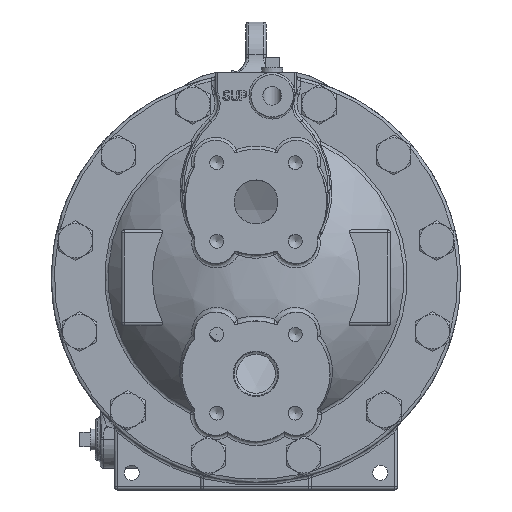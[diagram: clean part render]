
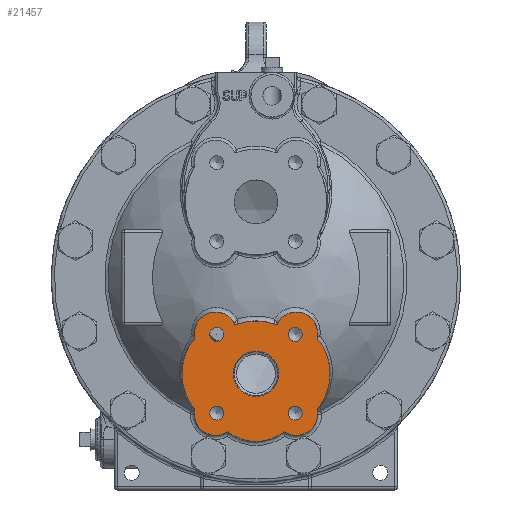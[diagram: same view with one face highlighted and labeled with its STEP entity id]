
A CAD part, front view. The second image highlights one B-rep face of the part: STEP entity #21457.
In plain terms, the highlighted planar face has unit normal (0, -1, 0).
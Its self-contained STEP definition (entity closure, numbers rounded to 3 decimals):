
#63=FACE_BOUND('',#5789,.T.);
#64=FACE_BOUND('',#5790,.T.);
#65=FACE_BOUND('',#5791,.T.);
#66=FACE_BOUND('',#5792,.T.);
#67=FACE_BOUND('',#5793,.T.);
#2300=PLANE('',#23464);
#4455=FACE_OUTER_BOUND('',#5788,.T.);
#5788=EDGE_LOOP('',(#18328,#18329,#18330,#18331,#18332,#18333,#18334,#18335,
#18336,#18337));
#5789=EDGE_LOOP('',(#18338,#18339));
#5790=EDGE_LOOP('',(#18340,#18341));
#5791=EDGE_LOOP('',(#18342,#18343));
#5792=EDGE_LOOP('',(#18344,#18345));
#5793=EDGE_LOOP('',(#18346,#18347));
#7735=CIRCLE('',#21956,6.918);
#7736=CIRCLE('',#21957,6.918);
#7741=CIRCLE('',#21964,6.918);
#7742=CIRCLE('',#21965,6.918);
#7748=CIRCLE('',#21973,6.918);
#7749=CIRCLE('',#21974,6.918);
#7755=CIRCLE('',#21982,6.918);
#7756=CIRCLE('',#21983,6.918);
#8567=CIRCLE('',#23330,21.);
#8569=CIRCLE('',#23333,55.);
#8571=CIRCLE('',#23336,22.461);
#8572=CIRCLE('',#23337,22.461);
#8601=CIRCLE('',#23374,45.);
#8603=CIRCLE('',#23377,21.);
#8604=CIRCLE('',#23379,55.);
#8605=CIRCLE('',#23381,21.);
#8617=CIRCLE('',#23406,21.);
#8620=CIRCLE('',#23412,2.);
#8621=CIRCLE('',#23415,52.3);
#8624=CIRCLE('',#23419,2.);
#9072=VERTEX_POINT('',#29658);
#9073=VERTEX_POINT('',#29659);
#9083=VERTEX_POINT('',#29708);
#9084=VERTEX_POINT('',#29709);
#9094=VERTEX_POINT('',#29760);
#9095=VERTEX_POINT('',#29761);
#9105=VERTEX_POINT('',#29812);
#9106=VERTEX_POINT('',#29813);
#10333=VERTEX_POINT('',#56136);
#10334=VERTEX_POINT('',#56138);
#10338=VERTEX_POINT('',#56157);
#10340=VERTEX_POINT('',#56171);
#10341=VERTEX_POINT('',#56173);
#10380=VERTEX_POINT('',#56316);
#10383=VERTEX_POINT('',#56327);
#10386=VERTEX_POINT('',#56352);
#10388=VERTEX_POINT('',#56357);
#10412=VERTEX_POINT('',#57751);
#10416=VERTEX_POINT('',#58167);
#10418=VERTEX_POINT('',#58173);
#11012=EDGE_CURVE('',#9072,#9073,#7735,.T.);
#11013=EDGE_CURVE('',#9073,#9072,#7736,.T.);
#11025=EDGE_CURVE('',#9083,#9084,#7741,.T.);
#11026=EDGE_CURVE('',#9084,#9083,#7742,.T.);
#11039=EDGE_CURVE('',#9094,#9095,#7748,.T.);
#11040=EDGE_CURVE('',#9095,#9094,#7749,.T.);
#11053=EDGE_CURVE('',#9105,#9106,#7755,.T.);
#11054=EDGE_CURVE('',#9106,#9105,#7756,.T.);
#13032=EDGE_CURVE('',#10333,#10334,#8567,.T.);
#13037=EDGE_CURVE('',#10338,#10333,#8569,.T.);
#13041=EDGE_CURVE('',#10341,#10340,#8571,.T.);
#13042=EDGE_CURVE('',#10340,#10341,#8572,.T.);
#13084=EDGE_CURVE('',#10334,#10380,#8601,.T.);
#13088=EDGE_CURVE('',#10380,#10383,#8603,.T.);
#13092=EDGE_CURVE('',#10383,#10386,#8604,.T.);
#13097=EDGE_CURVE('',#10386,#10388,#8605,.T.);
#13140=EDGE_CURVE('',#10412,#10338,#8617,.T.);
#13149=EDGE_CURVE('',#10416,#10412,#8620,.T.);
#13152=EDGE_CURVE('',#10418,#10416,#8621,.T.);
#13155=EDGE_CURVE('',#10388,#10418,#8624,.T.);
#18328=ORIENTED_EDGE('',*,*,#13097,.F.);
#18329=ORIENTED_EDGE('',*,*,#13092,.F.);
#18330=ORIENTED_EDGE('',*,*,#13088,.F.);
#18331=ORIENTED_EDGE('',*,*,#13084,.F.);
#18332=ORIENTED_EDGE('',*,*,#13032,.F.);
#18333=ORIENTED_EDGE('',*,*,#13037,.F.);
#18334=ORIENTED_EDGE('',*,*,#13140,.F.);
#18335=ORIENTED_EDGE('',*,*,#13149,.F.);
#18336=ORIENTED_EDGE('',*,*,#13152,.F.);
#18337=ORIENTED_EDGE('',*,*,#13155,.F.);
#18338=ORIENTED_EDGE('',*,*,#11012,.T.);
#18339=ORIENTED_EDGE('',*,*,#11013,.T.);
#18340=ORIENTED_EDGE('',*,*,#11025,.T.);
#18341=ORIENTED_EDGE('',*,*,#11026,.T.);
#18342=ORIENTED_EDGE('',*,*,#11039,.T.);
#18343=ORIENTED_EDGE('',*,*,#11040,.T.);
#18344=ORIENTED_EDGE('',*,*,#11053,.T.);
#18345=ORIENTED_EDGE('',*,*,#11054,.T.);
#18346=ORIENTED_EDGE('',*,*,#13041,.T.);
#18347=ORIENTED_EDGE('',*,*,#13042,.T.);
#21457=ADVANCED_FACE('',(#4455,#63,#64,#65,#66,#67),#2300,.F.);
#21956=AXIS2_PLACEMENT_3D('',#29660,#24287,#24288);
#21957=AXIS2_PLACEMENT_3D('',#29661,#24289,#24290);
#21964=AXIS2_PLACEMENT_3D('',#29710,#24308,#24309);
#21965=AXIS2_PLACEMENT_3D('',#29711,#24310,#24311);
#21973=AXIS2_PLACEMENT_3D('',#29762,#24331,#24332);
#21974=AXIS2_PLACEMENT_3D('',#29763,#24333,#24334);
#21982=AXIS2_PLACEMENT_3D('',#29814,#24354,#24355);
#21983=AXIS2_PLACEMENT_3D('',#29815,#24356,#24357);
#23330=AXIS2_PLACEMENT_3D('',#56139,#27407,#27408);
#23333=AXIS2_PLACEMENT_3D('',#56159,#27415,#27416);
#23336=AXIS2_PLACEMENT_3D('',#56174,#27422,#27423);
#23337=AXIS2_PLACEMENT_3D('',#56175,#27424,#27425);
#23374=AXIS2_PLACEMENT_3D('',#56317,#27505,#27506);
#23377=AXIS2_PLACEMENT_3D('',#56328,#27512,#27513);
#23379=AXIS2_PLACEMENT_3D('',#56353,#27517,#27518);
#23381=AXIS2_PLACEMENT_3D('',#56526,#27523,#27524);
#23406=AXIS2_PLACEMENT_3D('',#57754,#27579,#27580);
#23412=AXIS2_PLACEMENT_3D('',#58169,#27592,#27593);
#23415=AXIS2_PLACEMENT_3D('',#58175,#27599,#27600);
#23419=AXIS2_PLACEMENT_3D('',#58259,#27607,#27608);
#23464=AXIS2_PLACEMENT_3D('',#59104,#27710,#27711);
#24287=DIRECTION('center_axis',(0.,1.,0.));
#24288=DIRECTION('ref_axis',(0.,0.,
-1.));
#24289=DIRECTION('center_axis',(0.,1.,0.));
#24290=DIRECTION('ref_axis',(0.,0.,
-1.));
#24308=DIRECTION('center_axis',(0.,1.,0.));
#24309=DIRECTION('ref_axis',(-1.,0.,0.));
#24310=DIRECTION('center_axis',(0.,1.,0.));
#24311=DIRECTION('ref_axis',(-1.,0.,0.));
#24331=DIRECTION('center_axis',(0.,1.,0.));
#24332=DIRECTION('ref_axis',(0.,0.,
1.));
#24333=DIRECTION('center_axis',(0.,1.,0.));
#24334=DIRECTION('ref_axis',(0.,0.,
1.));
#24354=DIRECTION('center_axis',(0.,1.,0.));
#24355=DIRECTION('ref_axis',(1.,0.,0.));
#24356=DIRECTION('center_axis',(0.,1.,0.));
#24357=DIRECTION('ref_axis',(1.,0.,0.));
#27407=DIRECTION('center_axis',(0.,1.,0.));
#27408=DIRECTION('ref_axis',(1.,0.,0.));
#27415=DIRECTION('center_axis',(0.,1.,0.));
#27416=DIRECTION('ref_axis',(0.767,0.,0.642));
#27422=DIRECTION('center_axis',(0.,1.,0.));
#27423=DIRECTION('ref_axis',(1.,0.,0.));
#27424=DIRECTION('center_axis',(0.,1.,0.));
#27425=DIRECTION('ref_axis',(1.,0.,0.));
#27505=DIRECTION('center_axis',(0.,1.,0.));
#27506=DIRECTION('ref_axis',(0.622,0.,-0.783));
#27512=DIRECTION('center_axis',(0.,1.,0.));
#27513=DIRECTION('ref_axis',(1.,0.,0.));
#27517=DIRECTION('center_axis',(0.,1.,0.));
#27518=DIRECTION('ref_axis',(-0.767,0.,-0.642));
#27523=DIRECTION('center_axis',(0.,1.,0.));
#27524=DIRECTION('ref_axis',(1.,0.,0.));
#27579=DIRECTION('center_axis',(0.,1.,0.));
#27580=DIRECTION('ref_axis',(1.,0.,0.));
#27592=DIRECTION('center_axis',(0.,-1.,0.));
#27593=DIRECTION('ref_axis',(0.351,0.,-0.936));
#27599=DIRECTION('center_axis',(0.,1.,0.));
#27600=DIRECTION('ref_axis',(-0.919,0.,0.394));
#27607=DIRECTION('center_axis',(0.,-1.,0.));
#27608=DIRECTION('ref_axis',(-0.351,0.,-0.936));
#27710=DIRECTION('center_axis',(0.,1.,0.));
#27711=DIRECTION('ref_axis',(0.,0.,1.));
#29658=CARTESIAN_POINT('',(38.891,-117.,-140.808));
#29659=CARTESIAN_POINT('',(38.891,-117.,-126.973));
#29660=CARTESIAN_POINT('Origin',(38.891,-117.,-133.891));
#29661=CARTESIAN_POINT('Origin',(38.891,-117.,-133.891));
#29708=CARTESIAN_POINT('',(-45.808,-117.,-133.891));
#29709=CARTESIAN_POINT('',(-31.973,-117.,-133.891));
#29710=CARTESIAN_POINT('Origin',(-38.891,-117.,-133.891));
#29711=CARTESIAN_POINT('Origin',(-38.891,-117.,-133.891));
#29760=CARTESIAN_POINT('',(-38.891,-117.,-49.192));
#29761=CARTESIAN_POINT('',(-38.891,-117.,-63.027));
#29762=CARTESIAN_POINT('Origin',(-38.891,-117.,-56.109));
#29763=CARTESIAN_POINT('Origin',(-38.891,-117.,-56.109));
#29812=CARTESIAN_POINT('',(45.808,-117.,-56.109));
#29813=CARTESIAN_POINT('',(31.973,-117.,-56.109));
#29814=CARTESIAN_POINT('Origin',(38.891,-117.,-56.109));
#29815=CARTESIAN_POINT('Origin',(38.891,-117.,-56.109));
#56136=CARTESIAN_POINT('',(60.435,-117.,-130.322));
#56138=CARTESIAN_POINT('',(28.006,-117.,-152.223));
#56139=CARTESIAN_POINT('Origin',(39.952,-117.,-134.952));
#56157=CARTESIAN_POINT('',(60.435,-117.,-59.678));
#56159=CARTESIAN_POINT('Origin',(18.276,-117.,-95.));
#56171=CARTESIAN_POINT('',(-22.461,-117.,-95.));
#56173=CARTESIAN_POINT('',(22.461,-117.,-95.));
#56174=CARTESIAN_POINT('Origin',(0.,-117.,-95.));
#56175=CARTESIAN_POINT('Origin',(0.,-117.,-95.));
#56316=CARTESIAN_POINT('',(-28.006,-117.,-152.223));
#56317=CARTESIAN_POINT('Origin',(0.,-117.,-117.));
#56327=CARTESIAN_POINT('',(-60.435,-117.,-130.322));
#56328=CARTESIAN_POINT('Origin',(-39.952,-117.,-134.952));
#56352=CARTESIAN_POINT('',(-60.435,-117.,-59.678));
#56353=CARTESIAN_POINT('Origin',(-18.276,-117.,-95.));
#56357=CARTESIAN_POINT('',(-21.359,-117.,-45.286));
#56526=CARTESIAN_POINT('Origin',(-39.952,-117.,-55.048));
#57751=CARTESIAN_POINT('',(21.359,-117.,-45.286));
#57754=CARTESIAN_POINT('Origin',(39.952,-117.,-55.048));
#58167=CARTESIAN_POINT('',(18.867,-117.,-46.221));
#58169=CARTESIAN_POINT('Origin',(19.588,-117.,-44.356));
#58173=CARTESIAN_POINT('',(-18.867,-117.,-46.221));
#58175=CARTESIAN_POINT('Origin',(0.,-117.,-95.));
#58259=CARTESIAN_POINT('Origin',(-19.588,-117.,-44.356));
#59104=CARTESIAN_POINT('Origin',(-41.301,-117.,-133.82));
